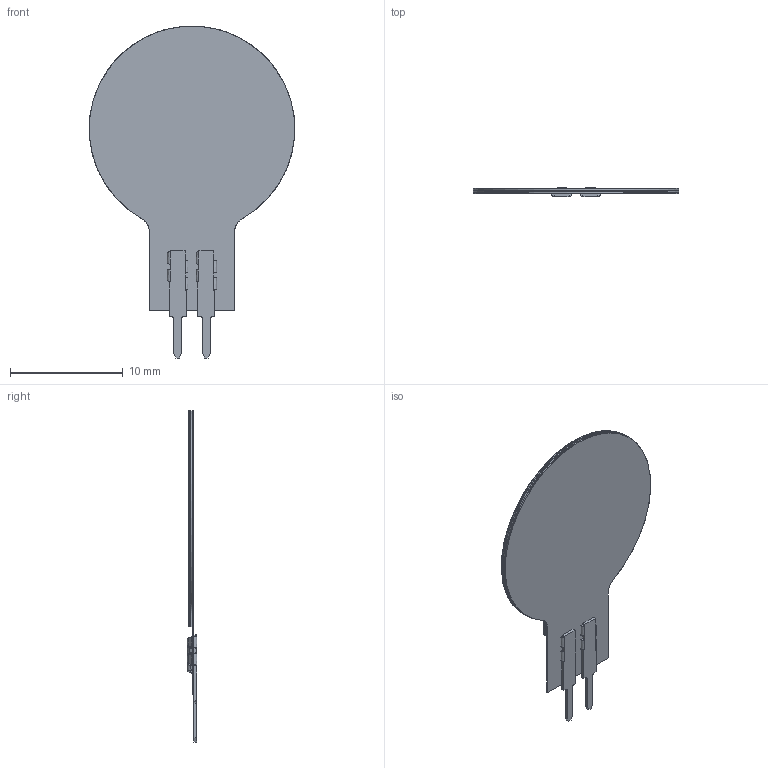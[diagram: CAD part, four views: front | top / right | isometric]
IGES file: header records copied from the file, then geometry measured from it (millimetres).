
Start section: SolidWorks IGES file using analytic representation for surfaces
Global section: file name: C:\Users\jleonard\Desktop\30-00015-FSR 402 Short Tail.IGS; native system: SolidWorks 2008; preprocessor: SolidWorks 2008; author: jleonard; date: 120927.163112; units: millimetre
Bounding box: 18.27 x 0.85 x 29.51 mm (x, y, z)
Surface area: 2839.7 mm2 (no closed solid volume)
Topology: 0 solids, 0 shells, 543 faces, 3844 edges, 3844 vertices
Faces by surface type: bspline 439, revolution 104
